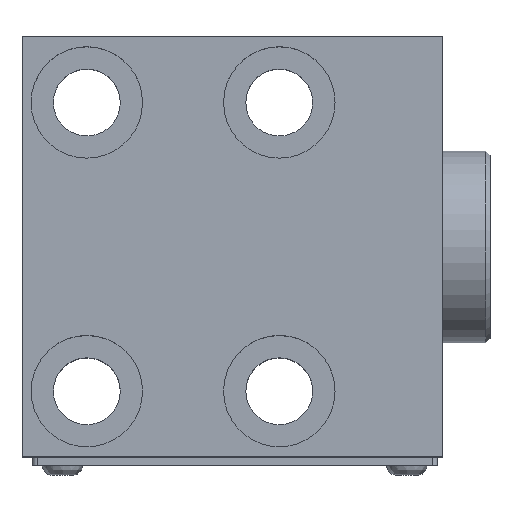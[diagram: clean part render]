
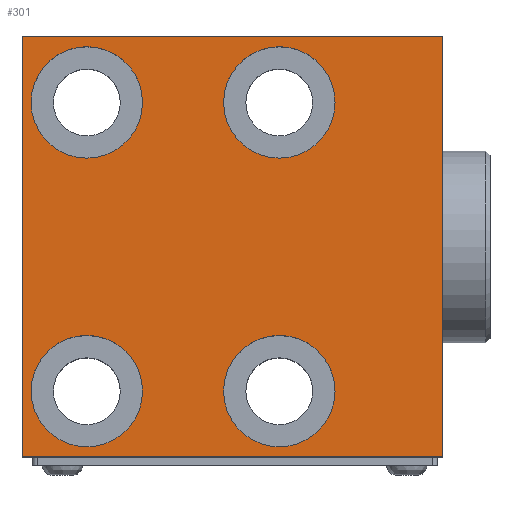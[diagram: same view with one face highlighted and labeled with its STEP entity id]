
A CAD part, top view. The second image highlights one B-rep face of the part: STEP entity #301.
In plain terms, the highlighted planar face has unit normal (0, 0, 1).
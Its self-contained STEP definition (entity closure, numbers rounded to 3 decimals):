
#301=ADVANCED_FACE('',(#445,#446,#447,#448,#449),#375,.T.);
#375=PLANE('',#1621);
#445=FACE_BOUND('',#601,.T.);
#446=FACE_BOUND('',#602,.T.);
#447=FACE_BOUND('',#603,.T.);
#448=FACE_BOUND('',#604,.T.);
#449=FACE_BOUND('',#605,.T.);
#601=EDGE_LOOP('',(#969));
#602=EDGE_LOOP('',(#970));
#603=EDGE_LOOP('',(#971,#972,#973,#974));
#604=EDGE_LOOP('',(#975));
#605=EDGE_LOOP('',(#976));
#718=CIRCLE('',#1617,5.5);
#719=CIRCLE('',#1618,5.5);
#720=CIRCLE('',#1619,5.5);
#721=CIRCLE('',#1620,5.5);
#969=ORIENTED_EDGE('',*,*,#1328,.T.);
#970=ORIENTED_EDGE('',*,*,#1329,.T.);
#971=ORIENTED_EDGE('',*,*,#1330,.F.);
#972=ORIENTED_EDGE('',*,*,#1331,.F.);
#973=ORIENTED_EDGE('',*,*,#1332,.F.);
#974=ORIENTED_EDGE('',*,*,#1333,.F.);
#975=ORIENTED_EDGE('',*,*,#1334,.T.);
#976=ORIENTED_EDGE('',*,*,#1335,.T.);
#1167=VERTEX_POINT('',#3426);
#1168=VERTEX_POINT('',#3428);
#1169=VERTEX_POINT('',#3430);
#1170=VERTEX_POINT('',#3431);
#1171=VERTEX_POINT('',#3433);
#1172=VERTEX_POINT('',#3435);
#1173=VERTEX_POINT('',#3438);
#1174=VERTEX_POINT('',#3440);
#1328=EDGE_CURVE('',#1167,#1167,#718,.T.);
#1329=EDGE_CURVE('',#1168,#1168,#719,.T.);
#1330=EDGE_CURVE('',#1169,#1170,#1435,.T.);
#1331=EDGE_CURVE('',#1171,#1169,#1436,.T.);
#1332=EDGE_CURVE('',#1172,#1171,#1437,.T.);
#1333=EDGE_CURVE('',#1170,#1172,#1438,.T.);
#1334=EDGE_CURVE('',#1173,#1173,#720,.T.);
#1335=EDGE_CURVE('',#1174,#1174,#721,.T.);
#1435=LINE('',#3429,#1502);
#1436=LINE('',#3432,#1503);
#1437=LINE('',#3434,#1504);
#1438=LINE('',#3436,#1505);
#1502=VECTOR('',#1942,1.);
#1503=VECTOR('',#1943,1.);
#1504=VECTOR('',#1944,1.);
#1505=VECTOR('',#1945,1.);
#1617=AXIS2_PLACEMENT_3D('',#3425,#1938,#1939);
#1618=AXIS2_PLACEMENT_3D('',#3427,#1940,#1941);
#1619=AXIS2_PLACEMENT_3D('',#3437,#1946,#1947);
#1620=AXIS2_PLACEMENT_3D('',#3439,#1948,#1949);
#1621=AXIS2_PLACEMENT_3D('',#3441,#1950,#1951);
#1938=DIRECTION('',(0.,0.,-1.));
#1939=DIRECTION('',(1.,0.,0.));
#1940=DIRECTION('',(0.,0.,-1.));
#1941=DIRECTION('',(1.,0.,0.));
#1942=DIRECTION('',(-1.,0.,0.));
#1943=DIRECTION('',(0.,-1.,0.));
#1944=DIRECTION('',(1.,0.,0.));
#1945=DIRECTION('',(0.,1.,0.));
#1946=DIRECTION('',(0.,0.,-1.));
#1947=DIRECTION('',(1.,0.,0.));
#1948=DIRECTION('',(0.,0.,-1.));
#1949=DIRECTION('',(1.,0.,0.));
#1950=DIRECTION('',(0.,0.,1.));
#1951=DIRECTION('',(-1.,0.,0.));
#3425=CARTESIAN_POINT('',(-58.473,49.073,23.));
#3426=CARTESIAN_POINT('',(-52.973,49.073,23.));
#3427=CARTESIAN_POINT('',(-58.473,20.573,23.));
#3428=CARTESIAN_POINT('',(-52.973,20.573,23.));
#3429=CARTESIAN_POINT('',(-23.373,14.073,23.));
#3430=CARTESIAN_POINT('',(-23.373,14.073,23.));
#3431=CARTESIAN_POINT('',(-64.873,14.073,23.));
#3432=CARTESIAN_POINT('',(-23.373,55.573,23.));
#3433=CARTESIAN_POINT('',(-23.373,55.573,23.));
#3434=CARTESIAN_POINT('',(-64.873,55.573,23.));
#3435=CARTESIAN_POINT('',(-64.873,55.573,23.));
#3436=CARTESIAN_POINT('',(-64.873,34.823,23.));
#3437=CARTESIAN_POINT('',(-39.473,20.573,23.));
#3438=CARTESIAN_POINT('',(-33.973,20.573,23.));
#3439=CARTESIAN_POINT('',(-39.473,49.073,23.));
#3440=CARTESIAN_POINT('',(-33.973,49.073,23.));
#3441=CARTESIAN_POINT('',(-39.473,49.073,23.));
